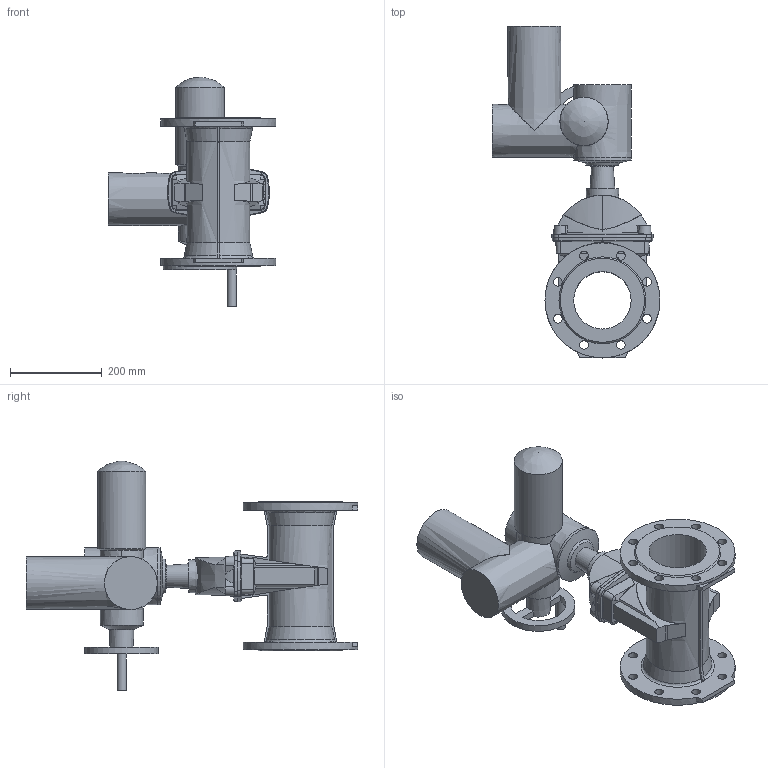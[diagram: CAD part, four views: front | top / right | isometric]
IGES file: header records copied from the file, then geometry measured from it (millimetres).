
Start section: SolidWorks IGES file using analytic representation for surfaces
Global section: file name: \\avksan2\techshare\PBM outline export from Enovia\O_15_72_DN125_X1XXX099_SA07.6_AA0.igs; native system: SolidWorks 2012; preprocessor: SolidWorks 2012; author: pbm; date: 170320.134833; units: inch
Bounding box: 365 x 722 x 499 mm (x, y, z)
Surface area: 894654.5 mm2 (no closed solid volume)
Topology: 0 solids, 0 shells, 293 faces, 2061 edges, 1998 vertices
Faces by surface type: bspline 175, revolution 118
